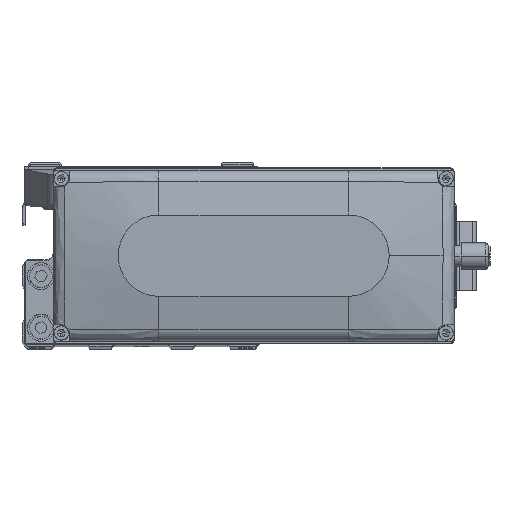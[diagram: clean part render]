
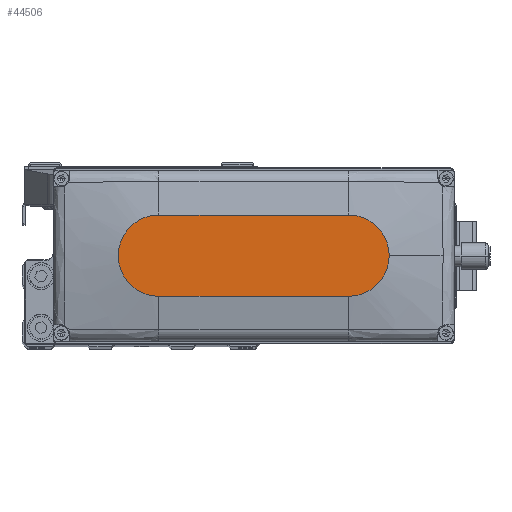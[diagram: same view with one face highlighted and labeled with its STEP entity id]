
A CAD part, top view. The second image highlights one B-rep face of the part: STEP entity #44506.
In plain terms, the highlighted planar face has unit normal (0, 0, 1).
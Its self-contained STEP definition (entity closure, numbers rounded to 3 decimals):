
#244 = EDGE_CURVE ( 'NONE', #14420, #46419, #17708, .T. ) ;
#1287 = CARTESIAN_POINT ( 'NONE',  ( -35., -15., 35. ) ) ;
#4703 = ORIENTED_EDGE ( 'NONE', *, *, #4906, .T. ) ;
#4906 = EDGE_CURVE ( 'NONE', #24099, #17858, #34112, .T. ) ;
#6298 = DIRECTION ( 'NONE',  ( 0., 0., 1. ) ) ;
#7828 = AXIS2_PLACEMENT_3D ( 'NONE', #41223, #8383, #23018 ) ;
#8383 = DIRECTION ( 'NONE',  ( 0., 0., 1. ) ) ;
#8433 = LINE ( 'NONE', #23065, #13702 ) ;
#9888 = FACE_OUTER_BOUND ( 'NONE', #26825, .T. ) ;
#11078 = DIRECTION ( 'NONE',  ( 1., 0., 0. ) ) ;
#12701 = CARTESIAN_POINT ( 'NONE',  ( -35., 0., 35. ) ) ;
#12778 = CARTESIAN_POINT ( 'NONE',  ( 35., -15., 35. ) ) ;
#12809 = ORIENTED_EDGE ( 'NONE', *, *, #31969, .T. ) ;
#13702 = VECTOR ( 'NONE', #37682, 1000. ) ;
#14420 = VERTEX_POINT ( 'NONE', #27280 ) ;
#15892 = DIRECTION ( 'NONE',  ( 1., 0., 0. ) ) ;
#16489 = CARTESIAN_POINT ( 'NONE',  ( -35., -15., 35. ) ) ;
#17708 = CIRCLE ( 'NONE', #44493, 15. ) ;
#17858 = VERTEX_POINT ( 'NONE', #12778 ) ;
#19354 = ORIENTED_EDGE ( 'NONE', *, *, #40332, .T. ) ;
#20922 = DIRECTION ( 'NONE',  ( 1., 0., 0. ) ) ;
#23018 = DIRECTION ( 'NONE',  ( 1., 0., 0. ) ) ;
#23065 = CARTESIAN_POINT ( 'NONE',  ( -35., 15., 35. ) ) ;
#24099 = VERTEX_POINT ( 'NONE', #16489 ) ;
#24383 = ORIENTED_EDGE ( 'NONE', *, *, #33886, .T. ) ;
#24515 = PLANE ( 'NONE',  #35504 ) ;
#25349 = AXIS2_PLACEMENT_3D ( 'NONE', #12701, #27342, #41945 ) ;
#26825 = EDGE_LOOP ( 'NONE', ( #12809, #24383, #4703, #19354, #37524 ) ) ;
#27280 = CARTESIAN_POINT ( 'NONE',  ( 50., 0., 35. ) ) ;
#27342 = DIRECTION ( 'NONE',  ( 0., 0., 1. ) ) ;
#28507 = CIRCLE ( 'NONE', #7828, 15. ) ;
#29316 = CARTESIAN_POINT ( 'NONE',  ( 35., 0., 35. ) ) ;
#31969 = EDGE_CURVE ( 'NONE', #46419, #35122, #8433, .T. ) ;
#33886 = EDGE_CURVE ( 'NONE', #35122, #24099, #45995, .T. ) ;
#34112 = LINE ( 'NONE', #1287, #42011 ) ;
#34523 = CARTESIAN_POINT ( 'NONE',  ( 35., 15., 35. ) ) ;
#35122 = VERTEX_POINT ( 'NONE', #38939 ) ;
#35504 = AXIS2_PLACEMENT_3D ( 'NONE', #39122, #6298, #20922 ) ;
#37524 = ORIENTED_EDGE ( 'NONE', *, *, #244, .T. ) ;
#37682 = DIRECTION ( 'NONE',  ( -1., 0., 0. ) ) ;
#38939 = CARTESIAN_POINT ( 'NONE',  ( -35., 15., 35. ) ) ;
#39122 = CARTESIAN_POINT ( 'NONE',  ( 0., 0., 35. ) ) ;
#40332 = EDGE_CURVE ( 'NONE', #17858, #14420, #28507, .T. ) ;
#41223 = CARTESIAN_POINT ( 'NONE',  ( 35., 0., 35. ) ) ;
#41945 = DIRECTION ( 'NONE',  ( 1., 0., 0. ) ) ;
#42011 = VECTOR ( 'NONE', #15892, 1000. ) ;
#43921 = DIRECTION ( 'NONE',  ( 0., 0., 1. ) ) ;
#44493 = AXIS2_PLACEMENT_3D ( 'NONE', #29316, #43921, #11078 ) ;
#44506 = ADVANCED_FACE ( 'NONE', ( #9888 ), #24515, .T. ) ;
#45995 = CIRCLE ( 'NONE', #25349, 15. ) ;
#46419 = VERTEX_POINT ( 'NONE', #34523 ) ;
